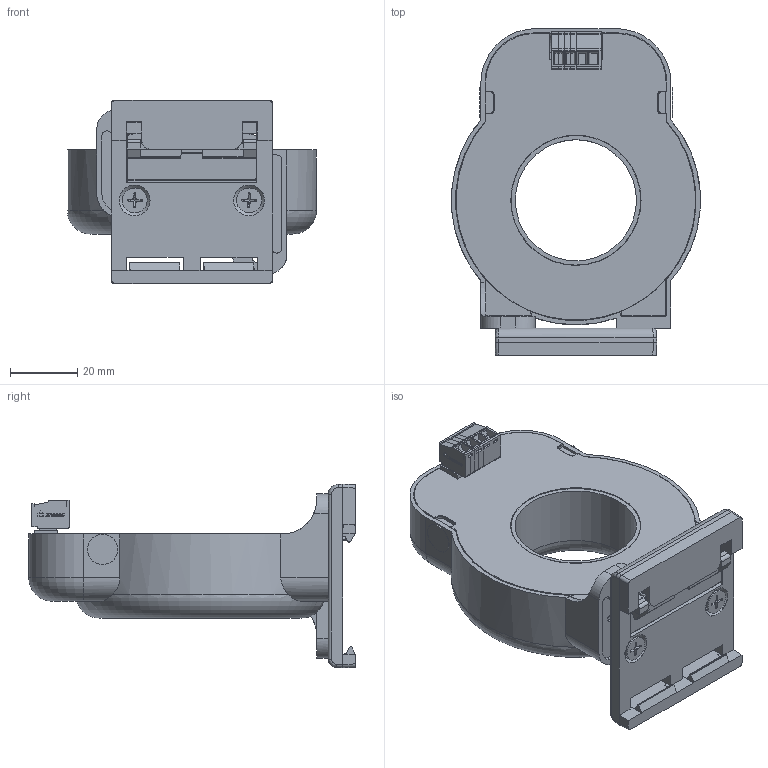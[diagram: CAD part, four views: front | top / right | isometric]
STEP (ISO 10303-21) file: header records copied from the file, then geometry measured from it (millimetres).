
FILE_DESCRIPTION(/* description */ (''),/* implementation_level */ '2;1');
FILE_NAME(/* name */ 'D:\WorkIMT\Project IMT\СКИ\СКИ для сайта\МТ.ПУЛЬС-ТТ-35.01 с DIN-рейкой для сайта.stp',/* time_stamp */ '2026-10-10T09:36:11+03:00',/* author */ ('admin'),/* organization */ (''),/* preprocessor_version */ 'ST-DEVELOPER v17.2',/* originating_system */ 'Autodesk Inventor 2019',/* authorisation */ '');
FILE_SCHEMA (('AUTOMOTIVE_DESIGN { 1 0 10303 214 3 1 1 }'));
Products named in the file (1): МТ.ПУЛЬС-ТТ-
35.01 с din-рейкой
Bounding box: 73.92 x 97 x 54.5 mm (x, y, z)
Volume: 58476.5 mm3; surface area: 44505.4 mm2
Topology: 3 solids, 8 shells, 1881 faces, 5340 edges, 3493 vertices
Faces by surface type: plane 1516, cylinder 229, torus 78, cone 50, bspline 8
Full cylindrical faces by diameter (mm): 0.127 x1, 2 x2, 2.87 x1, 2.95 x4, 3.242 x2, 4 x2, 4.5 x2, 5 x2, 7.4 x2, 9 x2, 36 x1, 38.7 x1, 43 x1
Entity records: 63594 total; most frequent: CARTESIAN_POINT 12141, ORIENTED_EDGE 10686, DIRECTION 9806, EDGE_CURVE 5343, LINE 4364, VECTOR 4364, VERTEX_POINT 3494, AXIS2_PLACEMENT_3D 2721
